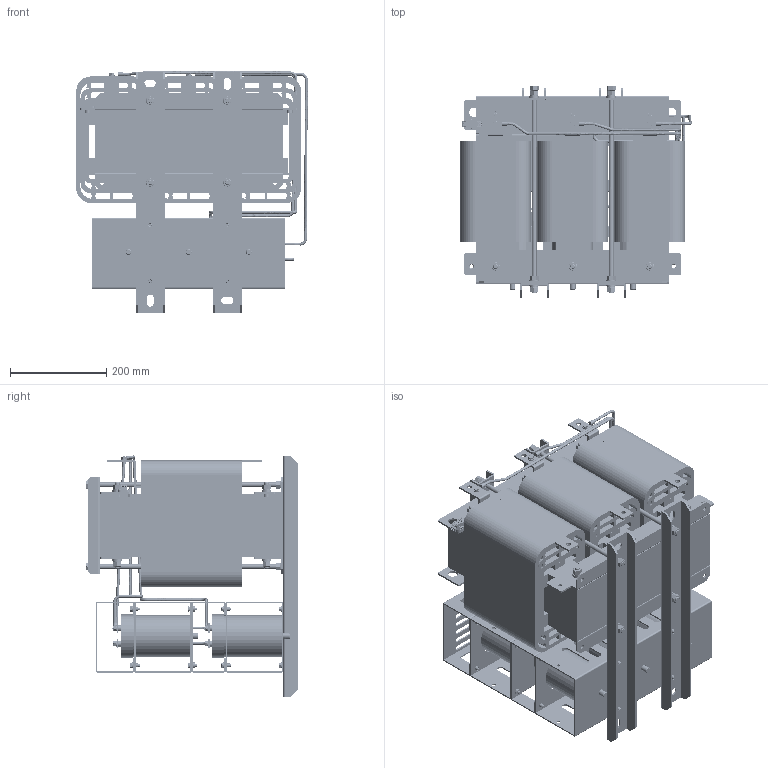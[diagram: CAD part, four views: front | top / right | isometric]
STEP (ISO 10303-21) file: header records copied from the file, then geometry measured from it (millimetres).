
FILE_DESCRIPTION(('STEP AP203'), '1');
FILE_NAME('蔓躅漤铋 耔眢耥 翳朦蝠 _ ISINOF-160_208-6', '', ('UNSPECIFIED'), ('UNSPECIFIED'), 'C3D Converter', 'C3D Toolkit', '');
FILE_SCHEMA(('CONFIG_CONTROL_DESIGN'));
Length unit declared in the file: millimetre
Products named in the file (44): ISINOF-160/208-6; LРНЦ吭X2\04560415\X0\; LРНЦ吭X2\04560415\X0\1; m10x180; M10X430; RNB14-6S; 吒X2\0425\X0\86-145; UРНС№Мх 50x25x4; 琵X2\04370418042D0458042C\X0\ ; 愧X2\0437\X0\琵X2\041004560415041C0445\X0\210mm; ёЗЧУ; №么X2\04270426041C0445\X0\12x10x210; ї琵X2\041E\X0\做зЧУKV223-2P; А降еМх70-380-1; ЖЅ豹X2\043504560415\X0\豹X2\0435\X0\12x30x210; ИэПаМъРѕ390-380-128; ЙПјРјю450-62-4ЈЁ70-160; ПВјРјю390-62-4ЈЁ70-160; ПЯИ¦208A; А降еМх琵X2\0436\X0\豹X2\0435\X0\78-70-2; ПВјРјю 70-160  ЅУ琵X2\042804570427\X0\; ДЪДёЕЕ30X4; НвДёЕЕ30x4mm; UРН琵X2\042704050415\X0\260x30x4; plain washers--product grade c gb_GB_FASTENER_WASHER_SMWC 10; spring lock washers--normal type gb_GB_FASTENER_WASHER_SW 10; hexagon nuts grade c gb_GB_FASTENER_NUT_SNC1 M10-N; 崤X2\0451\X0\愧X2\042D\X0\ КфУЪ UРН琵X2\042704050415\X0\ 60x30x4; 琵X2\04370418042D0426\X0\吭X2\04560415\X0\; Б枯X2\0405042304150415\X0\; plain washers--product grade c gb_GB_FASTENER_WASHER_SMWC 6; hex head bolts-full thread grade c gb_GB_FASTENER_BOLT_HHBFTC M6X12-N; Cable_1-ХэПТІЁВЛІЁЖчSKS-SF-0208-6AЈЇ05; 琵X2\043704100412\X0\^Cable_1-ХэПТІЁВЛІЁЖчSKS-SF-0208-6AЈЇ05; Cable_2-ХэПТІЁВЛІЁЖчSKS-SF-0208-6AЈЇ05; 琵X2\043704100412\X0\^Cable_2-ХэПТІЁВЛІЁЖчSKS-SF-0208-6AЈЇ05; Cable_3-ХэПТІЁВЛІЁЖчSKS-SF-0208-6AЈЇ05; 琵X2\043704100412\X0\^Cable_3-ХэПТІЁВЛІЁЖчSKS-SF-0208-6AЈЇ05; Cable_4-ХэПТІЁВЛІЁЖчSKS-SF-0208-6AЈЇ05-001; 琵X2\043704100412\X0\^Cable_4-ХэПТІЁВЛІЁЖчSKS-SF-0208-6AЈЇ05-001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
Assembly tree (288 placements, depth 3):
  ISINOF-160/208-6
    LРНЦ吭X2\04560415\X0\
    LРНЦ吭X2\04560415\X0\1
    m10x180  x6
    M10X430  x4
    RNB14-6S  x9
    吒X2\0425\X0\86-145  x6
    UРНС№Мх 50x25x4  x2
    琵X2\04370418042D0458042C\X0\   x2
    愧X2\0437\X0\琵X2\041004560415041C0445\X0\210mm  x12
    ёЗЧУ
    №么X2\04270426041C0445\X0\12x10x210  x24
    ї琵X2\041E\X0\做зЧУKV223-2P
    А降еМх70-380-1  x6
    ЖЅ豹X2\043504560415\X0\豹X2\0435\X0\12x30x210  x18
    ИэПаМъРѕ390-380-128
    ЙПјРјю450-62-4ЈЁ70-160  x2
    ПВјРјю390-62-4ЈЁ70-160
    ПЯИ¦208A  x3
    А降еМх琵X2\0436\X0\豹X2\0435\X0\78-70-2  x8
    ПВјРјю 70-160  ЅУ琵X2\042804570427\X0\
    ДЪДёЕЕ30X4  x3
    НвДёЕЕ30x4mm  x3
    UРН琵X2\042704050415\X0\260x30x4
    plain washers--product grade c gb_GB_FASTENER_WASHER_SMWC 10  x40
    spring lock washers--normal type gb_GB_FASTENER_WASHER_SW 10  x20
    hexagon nuts grade c gb_GB_FASTENER_NUT_SNC1 M10-N  x28
    崤X2\0451\X0\愧X2\042D\X0\ КфУЪ UРН琵X2\042704050415\X0\ 60x30x4
    琵X2\04370418042D0426\X0\吭X2\04560415\X0\  x2
    Б枯X2\0405042304150415\X0\  x4
    plain washers--product grade c gb_GB_FASTENER_WASHER_SMWC 6  x33
    hex head bolts-full thread grade c gb_GB_FASTENER_BOLT_HHBFTC M6X12-N  x17
    Cable_1-ХэПТІЁВЛІЁЖчSKS-SF-0208-6AЈЇ05
      琵X2\043704100412\X0\^Cable_1-ХэПТІЁВЛІЁЖчSKS-SF-0208-6AЈЇ05
    Cable_2-ХэПТІЁВЛІЁЖчSKS-SF-0208-6AЈЇ05
      琵X2\043704100412\X0\^Cable_2-ХэПТІЁВЛІЁЖчSKS-SF-0208-6AЈЇ05
    Cable_3-ХэПТІЁВЛІЁЖчSKS-SF-0208-6AЈЇ05
      琵X2\043704100412\X0\^Cable_3-ХэПТІЁВЛІЁЖчSKS-SF-0208-6AЈЇ05
    Cable_4-ХэПТІЁВЛІЁЖчSKS-SF-0208-6AЈЇ05-001
      琵X2\043704100412\X0\^Cable_4-ХэПТІЁВЛІЁЖчSKS-SF-0208-6AЈЇ05-001
    hex head bolts-full thread grade c gb_GB_FASTENER_BOLT_HHBFTC M6X16-N  x16
    L1 L2 L3МщЦЅ
    L1ЎЇ L2Ўｮ L3ЎЇМщЦЅ
    琵X2\0428\X0\崤X2\043A\X0\
Bounding box: 480.73 x 439.6 x 500.85 mm (x, y, z)
Volume: 34477539.7 mm3; surface area: 6377405.2 mm2
Topology: 317 solids, 317 shells, 3884 faces, 8855 edges, 5779 vertices
Faces by surface type: plane 2318, cylinder 1134, cone 388, bspline 32, torus 12
Full cylindrical faces by diameter (mm): 3 x2, 3.8 x2, 4 x4, 5 x3, 6 x77, 6.2 x9, 6.4 x9, 6.6 x33, 7 x8, 8 x27, 8.376 x28, 9 x4, 10 x10, 10.9 x20, 11 x46, 12 x65, 12.5 x12, 14 x36, 16.1 x20, 18.2 x1, 19 x1, 20 x45, 31.5 x6, 37.5 x6, 86 x12, 90 x12
Entity records: 74621 total; most frequent: CARTESIAN_POINT 23961, DIRECTION 6981, ORIENTED_EDGE 6288, EDGE_CURVE 3144, AXIS2_PLACEMENT_3D 2462, VERTEX_POINT 2197, LINE 2057, VECTOR 2057
